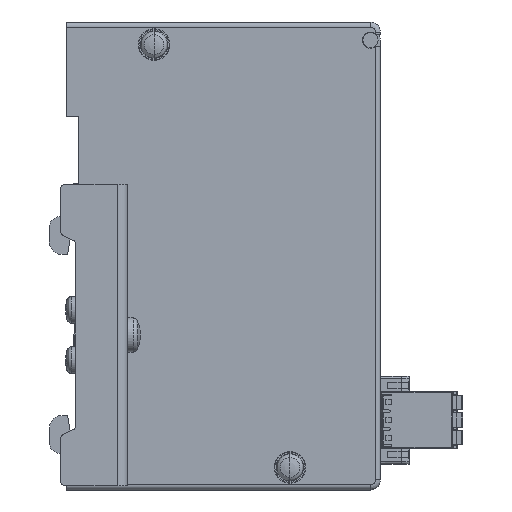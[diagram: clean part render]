
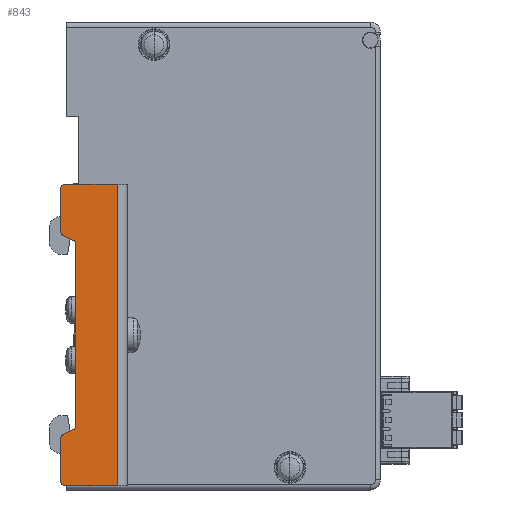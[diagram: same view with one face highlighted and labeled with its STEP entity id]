
A CAD part, left-side view. The second image highlights one B-rep face of the part: STEP entity #843.
In plain terms, the highlighted planar face has unit normal (-1, 0, 0).
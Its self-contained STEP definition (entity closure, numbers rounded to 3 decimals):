
#843=ADVANCED_FACE('',(#8250),#8249,.T.);
#8249=PLANE('',#14116);
#8250=FACE_OUTER_BOUND('',#14117,.T.);
#14113=CARTESIAN_POINT('',(-13.,-3.37,-36.));
#14114=DIRECTION('',(-1.,0.,0.));
#14115=DIRECTION('',(0.,-1.,0.));
#14116=AXIS2_PLACEMENT_3D('',#14113,#14114,#14115);
#14117=EDGE_LOOP('',(#18669,#18670,#18671,#18672,#18673,#18674,#18675,#18676,#18677,#18678,#18679,#18680,#18681,#18682));
#18669=ORIENTED_EDGE('',*,*,#21218,.F.);
#18670=ORIENTED_EDGE('',*,*,#21219,.T.);
#18671=ORIENTED_EDGE('',*,*,#21220,.T.);
#18672=ORIENTED_EDGE('',*,*,#21221,.T.);
#18673=ORIENTED_EDGE('',*,*,#21222,.F.);
#18674=ORIENTED_EDGE('',*,*,#21223,.T.);
#18675=ORIENTED_EDGE('',*,*,#21224,.T.);
#18676=ORIENTED_EDGE('',*,*,#21225,.T.);
#18677=ORIENTED_EDGE('',*,*,#21226,.T.);
#18678=ORIENTED_EDGE('',*,*,#21227,.T.);
#18679=ORIENTED_EDGE('',*,*,#21228,.T.);
#18680=ORIENTED_EDGE('',*,*,#21229,.F.);
#18681=ORIENTED_EDGE('',*,*,#21230,.T.);
#18682=ORIENTED_EDGE('',*,*,#21231,.F.);
#21218=EDGE_CURVE('',#33944,#33945,#33946,.T.);
#21219=EDGE_CURVE('',#33944,#33952,#33953,.T.);
#21220=EDGE_CURVE('',#33952,#33959,#33960,.T.);
#21221=EDGE_CURVE('',#33959,#33966,#33967,.T.);
#21222=EDGE_CURVE('',#33973,#33966,#33974,.T.);
#21223=EDGE_CURVE('',#33973,#33980,#33981,.T.);
#21224=EDGE_CURVE('',#33980,#33987,#33988,.T.);
#21225=EDGE_CURVE('',#33987,#33994,#33995,.T.);
#21226=EDGE_CURVE('',#33994,#34001,#34002,.T.);
#21227=EDGE_CURVE('',#34001,#34008,#34009,.T.);
#21228=EDGE_CURVE('',#34008,#34015,#34016,.T.);
#21229=EDGE_CURVE('',#34022,#34015,#34023,.T.);
#21230=EDGE_CURVE('',#34022,#34029,#34030,.T.);
#21231=EDGE_CURVE('',#33945,#34029,#34036,.T.);
#33944=VERTEX_POINT('',#43447);
#33945=VERTEX_POINT('',#43448);
#33946=LINE('',#43449,#43450);
#33952=VERTEX_POINT('',#43452);
#33953=CIRCLE('',#43456,1.);
#33959=VERTEX_POINT('',#43457);
#33960=LINE('',#43458,#43459);
#33966=VERTEX_POINT('',#43461);
#33967=CIRCLE('',#43465,1.);
#33973=VERTEX_POINT('',#43466);
#33974=LINE('',#43467,#43468);
#33980=VERTEX_POINT('',#43470);
#33981=LINE('',#43471,#43472);
#33987=VERTEX_POINT('',#43474);
#33988=LINE('',#43475,#43476);
#33994=VERTEX_POINT('',#43478);
#33995=CIRCLE('',#43482,1.);
#34001=VERTEX_POINT('',#43483);
#34002=LINE('',#43484,#43485);
#34008=VERTEX_POINT('',#43487);
#34009=CIRCLE('',#43491,1.);
#34015=VERTEX_POINT('',#43492);
#34016=LINE('',#43493,#43494);
#34022=VERTEX_POINT('',#43496);
#34023=CIRCLE('',#43500,1.);
#34029=VERTEX_POINT('',#43501);
#34030=LINE('',#43502,#43503);
#34036=CIRCLE('',#43508,1.);
#43447=CARTESIAN_POINT('',(-13.,-5.077,-19.73));
#43448=CARTESIAN_POINT('',(-13.,-6.923,-18.869));
#43449=CARTESIAN_POINT('',(-13.,-5.077,-19.73));
#43450=VECTOR('',#43451,2.036);
#43451=DIRECTION('',(0.,-0.906,0.423));
#43452=CARTESIAN_POINT('',(-13.,-4.5,-20.636));
#43453=CARTESIAN_POINT('',(-13.,-5.5,-20.636));
#43454=DIRECTION('',(-1.,0.,0.));
#43455=DIRECTION('',(0.,0.,1.));
#43456=AXIS2_PLACEMENT_3D('',#43453,#43454,#43455);
#43457=CARTESIAN_POINT('',(-13.,-4.5,-29.));
#43458=CARTESIAN_POINT('',(-13.,-4.5,-20.636));
#43459=VECTOR('',#43460,8.364);
#43460=DIRECTION('',(0.,0.,-1.));
#43461=CARTESIAN_POINT('',(-13.,-5.5,-30.));
#43462=CARTESIAN_POINT('',(-13.,-5.5,-29.));
#43463=DIRECTION('',(-1.,0.,0.));
#43464=DIRECTION('',(0.,0.,1.));
#43465=AXIS2_PLACEMENT_3D('',#43462,#43463,#43464);
#43466=CARTESIAN_POINT('',(-13.,-15.8,-30.));
#43467=CARTESIAN_POINT('',(-13.,-15.8,-30.));
#43468=VECTOR('',#43469,10.3);
#43469=DIRECTION('',(0.,1.,0.));
#43470=CARTESIAN_POINT('',(-13.,-15.8,30.));
#43471=CARTESIAN_POINT('',(-13.,-15.8,-30.));
#43472=VECTOR('',#43473,60.);
#43473=DIRECTION('',(0.,0.,1.));
#43474=CARTESIAN_POINT('',(-13.,-5.5,30.));
#43475=CARTESIAN_POINT('',(-13.,-15.8,30.));
#43476=VECTOR('',#43477,10.3);
#43477=DIRECTION('',(0.,1.,0.));
#43478=CARTESIAN_POINT('',(-13.,-4.5,29.));
#43479=CARTESIAN_POINT('',(-13.,-5.5,29.));
#43480=DIRECTION('',(-1.,0.,0.));
#43481=DIRECTION('',(0.,0.,1.));
#43482=AXIS2_PLACEMENT_3D('',#43479,#43480,#43481);
#43483=CARTESIAN_POINT('',(-13.,-4.5,20.636));
#43484=CARTESIAN_POINT('',(-13.,-4.5,29.));
#43485=VECTOR('',#43486,8.364);
#43486=DIRECTION('',(0.,0.,-1.));
#43487=CARTESIAN_POINT('',(-13.,-5.077,19.73));
#43488=CARTESIAN_POINT('',(-13.,-5.5,20.636));
#43489=DIRECTION('',(-1.,0.,0.));
#43490=DIRECTION('',(0.,0.,1.));
#43491=AXIS2_PLACEMENT_3D('',#43488,#43489,#43490);
#43492=CARTESIAN_POINT('',(-13.,-6.923,18.869));
#43493=CARTESIAN_POINT('',(-13.,-5.077,19.73));
#43494=VECTOR('',#43495,2.036);
#43495=DIRECTION('',(0.,-0.906,-0.423));
#43496=CARTESIAN_POINT('',(-13.,-7.5,17.963));
#43497=CARTESIAN_POINT('',(-13.,-6.5,17.963));
#43498=DIRECTION('',(-1.,0.,0.));
#43499=DIRECTION('',(0.,0.,1.));
#43500=AXIS2_PLACEMENT_3D('',#43497,#43498,#43499);
#43501=CARTESIAN_POINT('',(-13.,-7.5,-17.963));
#43502=CARTESIAN_POINT('',(-13.,-7.5,17.963));
#43503=VECTOR('',#43504,35.926);
#43504=DIRECTION('',(0.,0.,-1.));
#43505=CARTESIAN_POINT('',(-13.,-6.5,-17.963));
#43506=DIRECTION('',(-1.,0.,0.));
#43507=DIRECTION('',(0.,0.,1.));
#43508=AXIS2_PLACEMENT_3D('',#43505,#43506,#43507);
